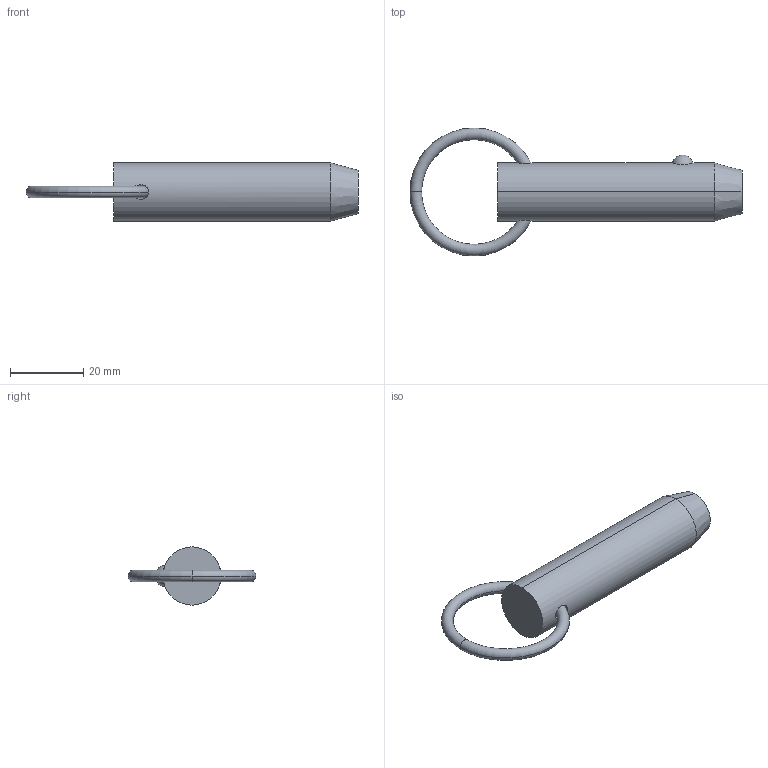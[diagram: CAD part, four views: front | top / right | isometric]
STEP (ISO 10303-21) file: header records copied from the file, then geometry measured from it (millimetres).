
FILE_DESCRIPTION (( 'STEP AP203' ), '1' );
FILE_NAME ('33010.W6215.step', '2024-11-01T10:41:25', ( '' ), ( '' ), 'SwSTEP 2.0', 'SolidWorks 2019', '' );
FILE_SCHEMA (( 'CONFIG_CONTROL_DESIGN' ));
Length unit declared in the file: millimetre
Products named in the file (3): Part1_33010.W6215; 33010.W6215; Part2_33010.W6215
Assembly tree (2 placements, depth 2):
  33010.W6215
    Part1_33010.W6215
    Part2_33010.W6215
Bounding box: 90.61 x 34.93 x 15.88 mm (x, y, z)
Volume: 13492 mm3; surface area: 4789.9 mm2
Topology: 2 solids, 2 shells, 16 faces, 31 edges, 18 vertices
Faces by surface type: torus 8, sphere 2, cone 2, cylinder 2, plane 2
Entity records: 889 total; most frequent: CARTESIAN_POINT 246, DIRECTION 88, ORIENTED_EDGE 62, AXIS2_PLACEMENT_3D 42, EDGE_CURVE 31, PERSON_AND_ORGANIZATION 26, CIRCLE 21, EDGE_LOOP 19
